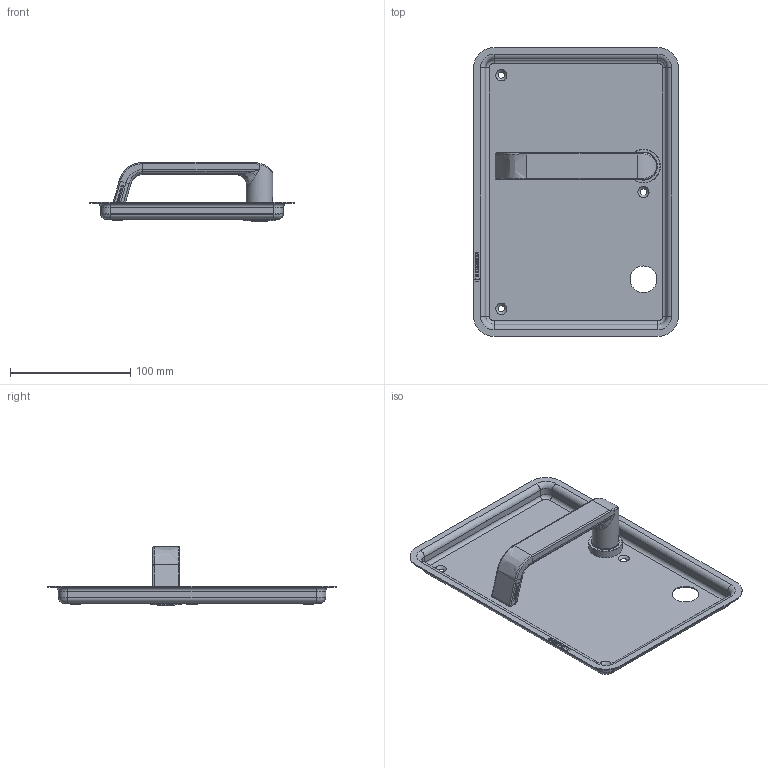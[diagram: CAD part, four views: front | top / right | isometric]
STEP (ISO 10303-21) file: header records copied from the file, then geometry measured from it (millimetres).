
FILE_DESCRIPTION(/* description */ (''),/* implementation_level */ '2;1');
FILE_NAME(/* name */ 'C:\ADSK_DMS_WS\Designs\Vorschläge\Loc Schalen\Muschel Serie 3\S3.13.D2Links\Heusser-Muschel S3.13.D2.294L.stp',/* time_stamp */ '2020-11-21T08:45:21+01:00',/* author */ ('gm'),/* organization */ (''),/* preprocessor_version */ 'ST-DEVELOPER v16.5',/* originating_system */ 'Autodesk Inventor 2017',/* authorisation */ '');
FILE_SCHEMA (('AUTOMOTIVE_DESIGN { 1 0 10303 214 3 1 1 }'));
Length unit declared in the file: millimetre
Products named in the file (1): S3.13.D1.L
Bounding box: 170 x 240 x 49 mm (x, y, z)
Volume: 89811.7 mm3; surface area: 109816.3 mm2
Topology: 1 solids, 2 shells, 610 faces, 1598 edges, 1034 vertices
Faces by surface type: plane 294, bspline 212, cylinder 71, torus 17, cone 16
Full cylindrical faces by diameter (mm): 1.7 x2, 6 x1, 16 x3, 18 x1, 19 x1, 19.1 x1, 22 x1, 22.3 x1, 23 x1, 23.2 x1, 24 x1, 25 x1, 26 x1, 28 x1
Entity records: 20865 total; most frequent: CARTESIAN_POINT 6394, ORIENTED_EDGE 3110, DIRECTION 2317, EDGE_CURVE 1555, VERTEX_POINT 1028, LINE 955, VECTOR 955, EDGE_LOOP 705
